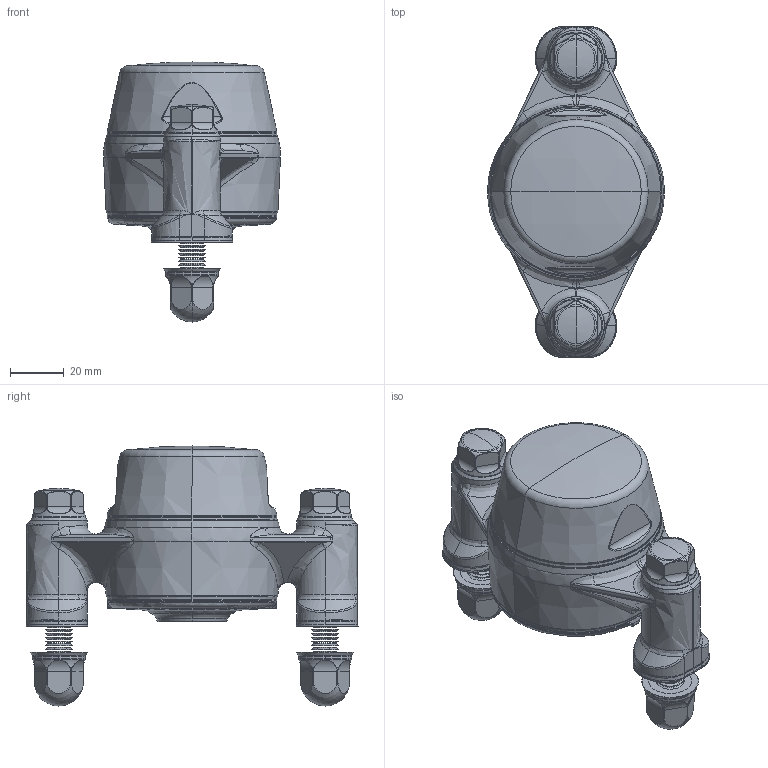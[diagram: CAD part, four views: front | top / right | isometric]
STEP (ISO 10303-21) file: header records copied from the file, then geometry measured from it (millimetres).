
FILE_DESCRIPTION (( 'STEP AP203' ), '1' );
FILE_NAME ('XB2FC52(Blue)-SSB2500(Front)-CL(Blue)-OS(Blue)-BXHM1055-NDXHM10_Shell.step', '2020-09-23T17:27:29', ( '' ), ( '' ), 'SwSTEP 2.0', 'SolidWorks 2019', '' );
FILE_SCHEMA (( 'CONFIG_CONTROL_DESIGN' ));
Length unit declared in the file: millimetre
Products named in the file (1): XB2FC52(Blue)-SSB2500(Front)-CL(Blue)-OS(Blue)-BXHM1055-NDXHM10_Shell
Bounding box: 65.77 x 123.4 x 96.65 mm (x, y, z)
Surface area: 41150 mm2 (no closed solid volume)
Topology: 0 solids, 54 shells, 960 faces, 3094 edges, 2099 vertices
Faces by surface type: bspline 338, cylinder 214, torus 170, cone 105, plane 101, sphere 32
Entity records: 54609 total; most frequent: CARTESIAN_POINT 31133, ORIENTED_EDGE 4986, DIRECTION 4085, EDGE_CURVE 3090, VERTEX_POINT 2099, AXIS2_PLACEMENT_3D 1743, B_SPLINE_CURVE_WITH_KNOTS 1305, CIRCLE 1120
